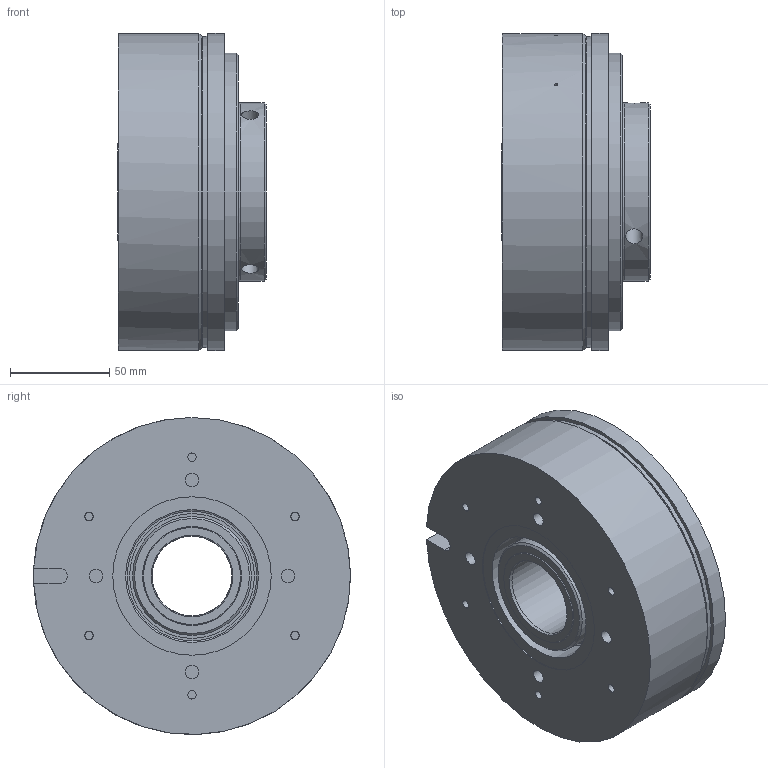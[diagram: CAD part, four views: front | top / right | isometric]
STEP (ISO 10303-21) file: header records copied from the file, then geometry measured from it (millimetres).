
FILE_DESCRIPTION (( 'STEP AP203' ), '1' );
FILE_NAME ('86_61116P00_-0001_Idx_B.STEP', '2025-03-26T12:31:52', ( '' ), ( '' ), 'SwSTEP 2.0', 'SolidWorks 2022', '' );
FILE_SCHEMA (( 'CONFIG_CONTROL_DESIGN' ));
Length unit declared in the file: millimetre
Products named in the file (1): 86_61116P00_-0001_Idx_B
Bounding box: 74.77 x 160 x 160 mm (x, y, z)
Volume: 1119352.1 mm3; surface area: 136019.8 mm2
Topology: 2 solids, 2 shells, 74 faces, 136 edges, 85 vertices
Faces by surface type: cylinder 32, plane 26, cone 13, torus 3
Full cylindrical faces by diameter (mm): 1.6 x4, 4.2 x6, 6.8 x4, 8.5 x3, 40.2 x1, 40.4 x1, 60 x2, 63 x1, 67 x1, 69 x1, 80 x1, 90 x1, 133.5 x1, 140 x1, 157 x1, 160 x2
Entity records: 2123 total; most frequent: CARTESIAN_POINT 737, DIRECTION 290, ORIENTED_EDGE 168, EDGE_LOOP 150, AXIS2_PLACEMENT_3D 141, FACE_OUTER_BOUND 108, EDGE_CURVE 84, VERTEX_POINT 80
